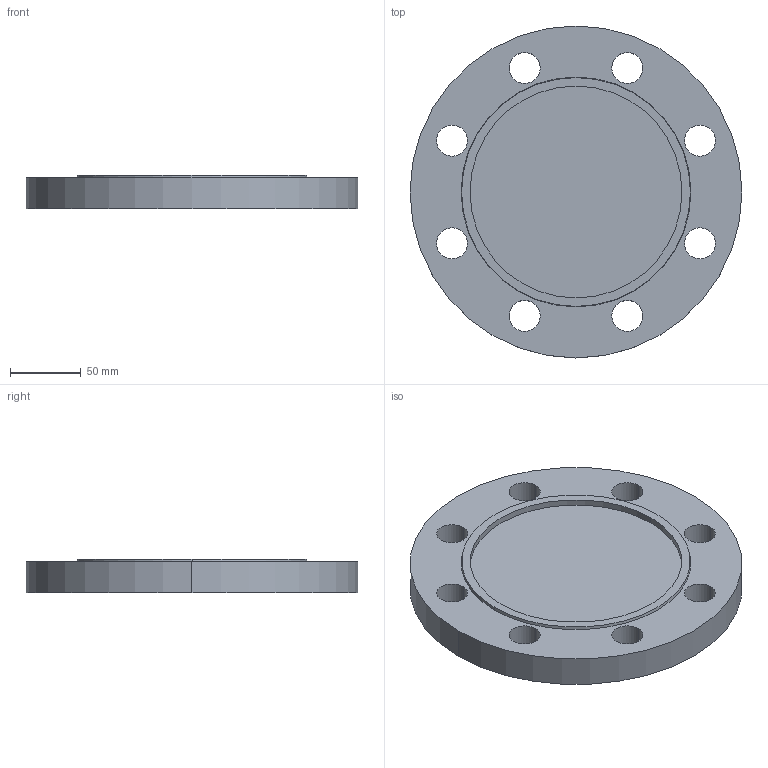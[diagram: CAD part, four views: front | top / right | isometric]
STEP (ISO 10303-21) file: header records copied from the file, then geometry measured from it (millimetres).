
FILE_DESCRIPTION (( 'STEP AP214' ), '1' );
FILE_NAME ('PN40 DN100 Type 05 - Type F Face.STEP', '2019-01-02T00:25:11', ( '' ), ( '' ), 'SwSTEP 2.0', 'SolidWorks 2019', '' );
FILE_SCHEMA (( 'AUTOMOTIVE_DESIGN' ));
Length unit declared in the file: millimetre
Products named in the file (1): PN40 DN100 Type 05 - Type F Face
Bounding box: 235 x 235 x 24 mm (x, y, z)
Volume: 849198.3 mm3; surface area: 112047.9 mm2
Topology: 1 solids, 1 shells, 26 faces, 66 edges, 44 vertices
Faces by surface type: cylinder 20, plane 4, cone 2
Entity records: 880 total; most frequent: DIRECTION 164, CARTESIAN_POINT 137, ORIENTED_EDGE 132, AXIS2_PLACEMENT_3D 71, EDGE_CURVE 66, CIRCLE 44, VERTEX_POINT 44, EDGE_LOOP 44
